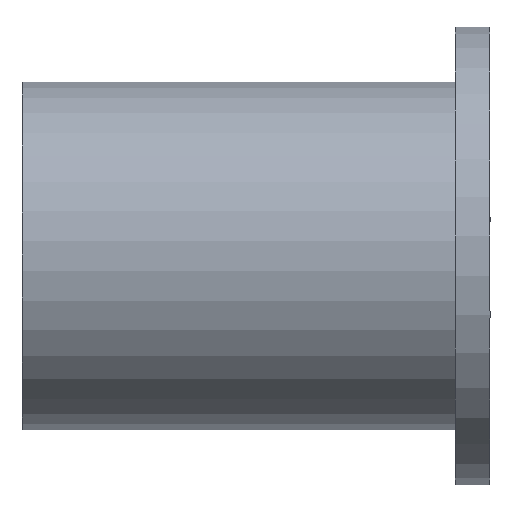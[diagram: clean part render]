
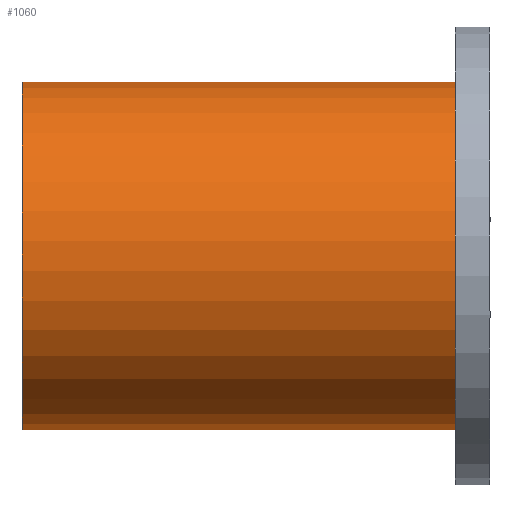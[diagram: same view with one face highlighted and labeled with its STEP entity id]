
A CAD part, front view. The second image highlights one B-rep face of the part: STEP entity #1060.
In plain terms, the highlighted cylindrical face has radius 10.05 mm (diameter 20.1 mm), a full revolution.
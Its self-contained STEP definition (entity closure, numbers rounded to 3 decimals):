
#520=CARTESIAN_POINT('',(39.,-10.328,-1.882));
#530=VERTEX_POINT('',#520);
#610=CARTESIAN_POINT('',(39.,-10.328,-1.892));
#620=VERTEX_POINT('',#610);
#650=CARTESIAN_POINT('',(39.,-0.278,-1.887));
#660=DIRECTION('',(-1.,0.,0.));
#670=DIRECTION('',(0.,0.,1.));
#680=AXIS2_PLACEMENT_3D('',#650,#660,#670);
#690=CIRCLE('',#680,10.05);
#700=EDGE_CURVE('',#530,#620,#690,.T.);
#750=CARTESIAN_POINT('',(51.5,-0.278,-1.887));
#760=DIRECTION('',(1.,0.,0.));
#770=DIRECTION('',(0.,0.,1.));
#780=AXIS2_PLACEMENT_3D('',#750,#760,#770);
#790=CYLINDRICAL_SURFACE('',#780,10.05);
#800=CARTESIAN_POINT('',(51.5,-10.328,-1.882));
#810=DIRECTION('',(1.,0.,0.));
#820=VECTOR('',#810,1.);
#830=LINE('',#800,#820);
#840=CARTESIAN_POINT('',(64.,-10.328,-1.882));
#850=VERTEX_POINT('',#840);
#860=EDGE_CURVE('',#530,#850,#830,.T.);
#870=ORIENTED_EDGE('',*,*,#860,.T.);
#880=ORIENTED_EDGE('',*,*,#700,.F.);
#890=CARTESIAN_POINT('',(51.5,-10.328,-1.892));
#900=DIRECTION('',(1.,0.,0.));
#910=VECTOR('',#900,1.);
#920=LINE('',#890,#910);
#930=CARTESIAN_POINT('',(64.,-10.328,-1.892));
#940=VERTEX_POINT('',#930);
#950=EDGE_CURVE('',#620,#940,#920,.T.);
#960=ORIENTED_EDGE('',*,*,#950,.F.);
#970=CARTESIAN_POINT('',(64.,-0.278,-1.887));
#980=DIRECTION('',(-1.,0.,0.));
#990=DIRECTION('',(0.,0.,1.));
#1000=AXIS2_PLACEMENT_3D('',#970,#980,#990);
#1010=CIRCLE('',#1000,10.05);
#1020=EDGE_CURVE('',#850,#940,#1010,.T.);
#1030=ORIENTED_EDGE('',*,*,#1020,.T.);
#1040=EDGE_LOOP('',(#1030,#960,#880,#870));
#1050=FACE_OUTER_BOUND('',#1040,.T.);
#1060=ADVANCED_FACE('',(#1050),#790,.T.);
